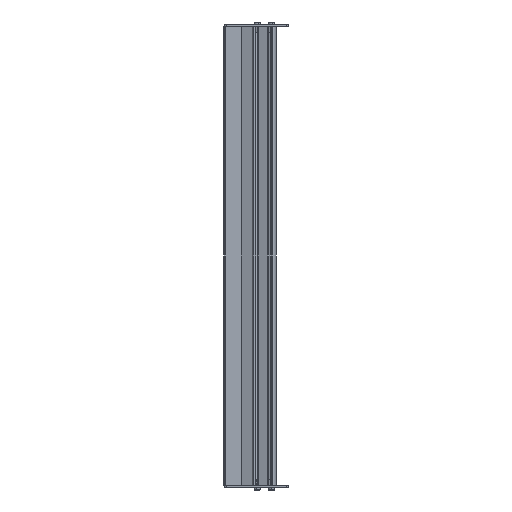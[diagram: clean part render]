
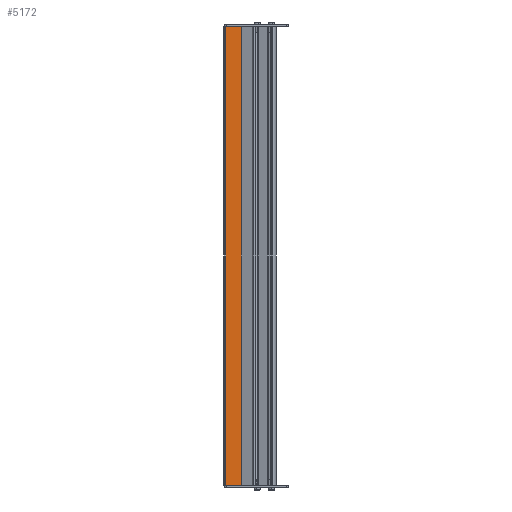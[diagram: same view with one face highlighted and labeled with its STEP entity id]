
A CAD part, left-side view. The second image highlights one B-rep face of the part: STEP entity #5172.
In plain terms, the highlighted planar face has unit normal (-1, 0, 0) as drawn and (1, 0, 0) by its records, which use the part's own axes.
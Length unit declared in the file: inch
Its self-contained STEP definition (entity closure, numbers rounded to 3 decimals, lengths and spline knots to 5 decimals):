
#4296=DIRECTION('',(0.,0.,1.));
#4297=VECTOR('',#4296,26.236);
#4298=CARTESIAN_POINT('',(0.048,0.01693,-13.118));
#4299=LINE('',#4298,#4297);
#4326=DIRECTION('',(0.,-1.,0.));
#4327=VECTOR('',#4326,0.88707);
#4328=CARTESIAN_POINT('',(0.048,0.904,-13.118));
#4329=LINE('',#4328,#4327);
#4330=DIRECTION('',(0.,-1.,0.));
#4331=VECTOR('',#4330,0.88707);
#4332=CARTESIAN_POINT('',(0.048,0.904,13.118));
#4333=LINE('',#4332,#4331);
#4334=DIRECTION('',(0.,0.,-1.));
#4335=VECTOR('',#4334,26.236);
#4336=CARTESIAN_POINT('',(0.048,0.904,13.118));
#4337=LINE('',#4336,#4335);
#4756=CARTESIAN_POINT('',(0.048,0.904,-13.118));
#4757=CARTESIAN_POINT('',(0.048,0.01693,-13.118));
#4758=VERTEX_POINT('',#4756);
#4759=VERTEX_POINT('',#4757);
#4770=CARTESIAN_POINT('',(0.048,0.01693,13.118));
#4771=VERTEX_POINT('',#4770);
#4786=CARTESIAN_POINT('',(0.048,0.904,13.118));
#4787=VERTEX_POINT('',#4786);
#5160=CARTESIAN_POINT('',(0.048,0.,13.118));
#5161=DIRECTION('',(-1.,0.,0.));
#5162=DIRECTION('',(0.,0.,1.));
#5163=AXIS2_PLACEMENT_3D('',#5160,#5161,#5162);
#5164=PLANE('',#5163);
#5165=ORIENTED_EDGE('',*,*,#5153,.T.);
#5166=ORIENTED_EDGE('',*,*,#5096,.T.);
#5167=ORIENTED_EDGE('',*,*,#5125,.F.);
#5169=ORIENTED_EDGE('',*,*,#5168,.T.);
#5170=EDGE_LOOP('',(#5165,#5166,#5167,#5169));
#5171=FACE_OUTER_BOUND('',#5170,.F.);
#5096=EDGE_CURVE('',#4759,#4771,#4299,.T.);
#5125=EDGE_CURVE('',#4787,#4771,#4333,.T.);
#5153=EDGE_CURVE('',#4758,#4759,#4329,.T.);
#5168=EDGE_CURVE('',#4787,#4758,#4337,.T.);
#5172=ADVANCED_FACE('',(#5171),#5164,.F.);
